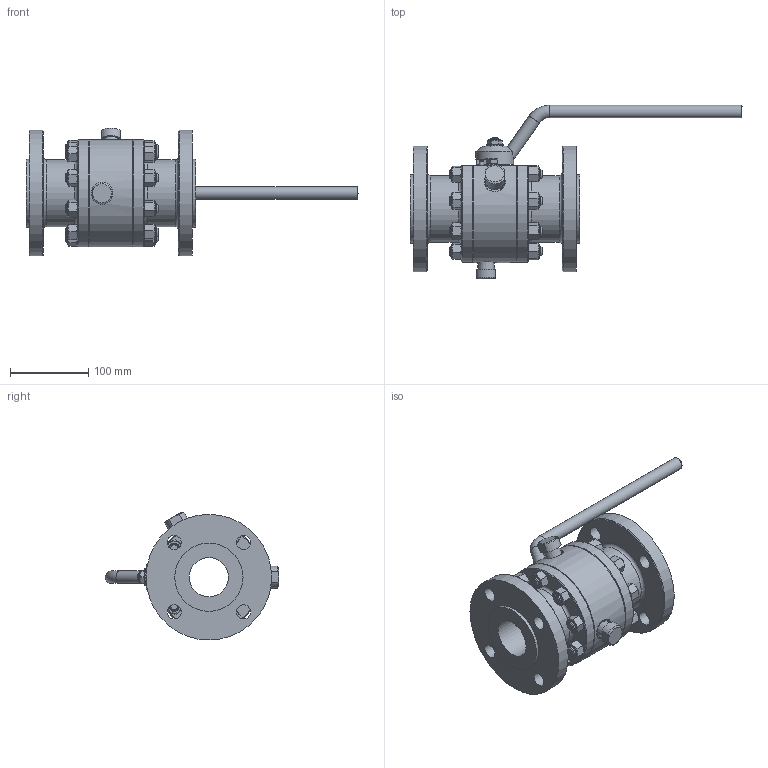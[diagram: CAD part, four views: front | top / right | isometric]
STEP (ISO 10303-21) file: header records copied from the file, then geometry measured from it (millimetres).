
FILE_DESCRIPTION(('STEP AP214'), '1');
FILE_NAME('ZARDP 050.025.22.Ð', '', ('UNSPECIFIED'), ('UNSPECIFIED'), 'ASCON STEP Converter 1.6', 'ASCON Math Kernel', '');
FILE_SCHEMA(('AUTOMOTIVE_DESIGN { 1 0 10303 214 3 1 1}'));
Length unit declared in the file: millimetre
Bounding box: 423.01 x 221 x 163.08 mm (x, y, z)
Volume: 2003237.5 mm3; surface area: 257266.1 mm2
Topology: 1 solids, 1 shells, 371 faces, 836 edges, 524 vertices
Faces by surface type: plane 197, cone 85, cylinder 75, torus 12, bspline 2
Full cylindrical faces by diameter (mm): 6 x1, 10 x1, 12 x17, 16 x2, 17.477 x1, 18 x8, 21.8 x1, 22 x1, 25 x2, 48 x1, 50 x2, 54 x2, 60 x2, 77 x2, 84 x1, 85 x2, 87 x2, 160 x2
Entity records: 22285 total; most frequent: CARTESIAN_POINT 11768, DIRECTION 1450, ORIENTED_EDGE 1400, EDGE_CURVE 700, AXIS2_PLACEMENT_3D 629, EDGE_LOOP 584, VERTEX_POINT 524, FACE_BOUND 378
